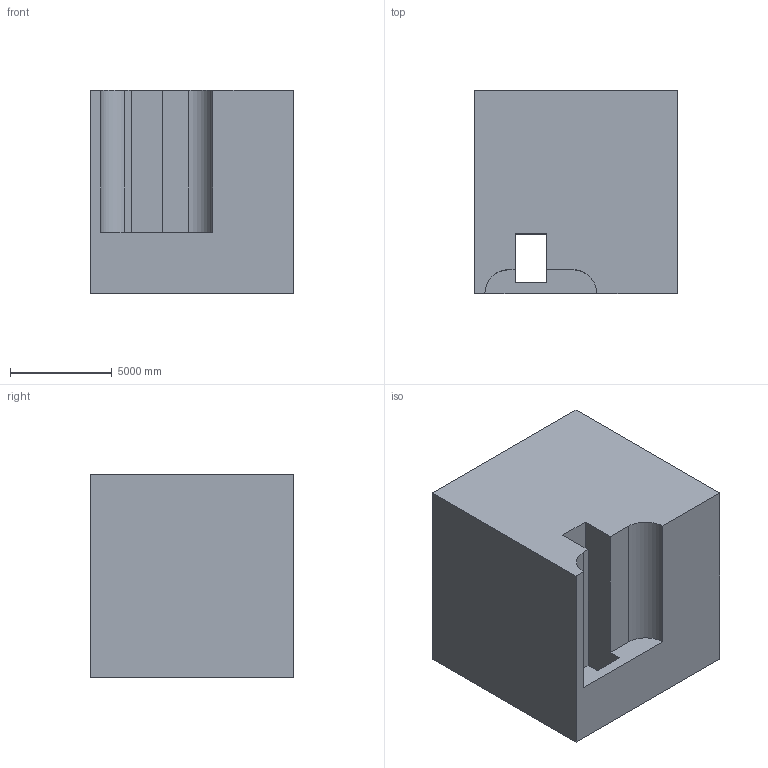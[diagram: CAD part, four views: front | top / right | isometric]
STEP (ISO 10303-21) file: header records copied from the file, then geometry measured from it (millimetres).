
FILE_DESCRIPTION (( 'STEP AP203' ), '1' );
FILE_NAME ('1173.STEP', '2022-08-18T13:02:51', ( 'user' ), ( '' ), 'SwSTEP 2.0', 'SolidWorks 2021', '' );
FILE_SCHEMA (( 'CONFIG_CONTROL_DESIGN' ));
Length unit declared in the file: centimetre
Products named in the file (1): 1173
Bounding box: 10000 x 10000 x 10000 mm (x, y, z)
Volume: 928674720340.9 mm3; surface area: 650269432.5 mm2
Topology: 1 solids, 1 shells, 15 faces, 42 edges, 28 vertices
Faces by surface type: plane 13, cylinder 2
Entity records: 561 total; most frequent: CARTESIAN_POINT 86, ORIENTED_EDGE 84, DIRECTION 78, EDGE_CURVE 42, LINE 38, VECTOR 38, VERTEX_POINT 28, AXIS2_PLACEMENT_3D 20
